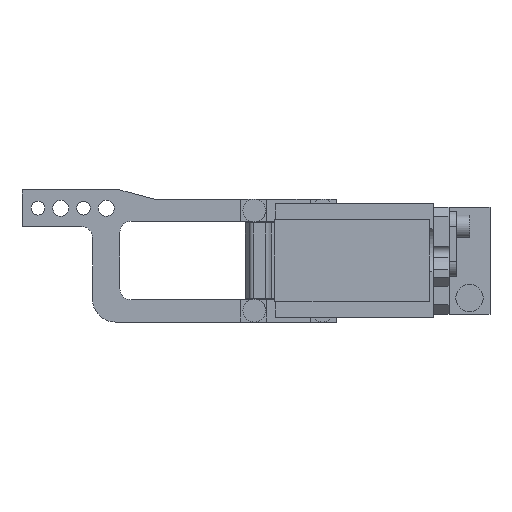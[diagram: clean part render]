
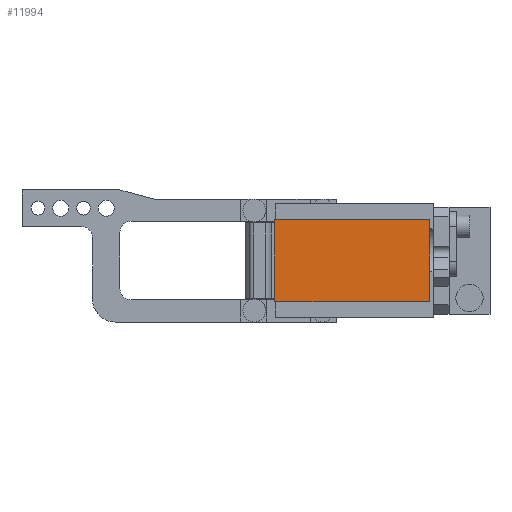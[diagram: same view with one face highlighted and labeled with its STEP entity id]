
A CAD part, front view. The second image highlights one B-rep face of the part: STEP entity #11994.
In plain terms, the highlighted planar face has unit normal (0, -1, 0).
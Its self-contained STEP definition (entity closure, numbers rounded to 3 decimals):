
#336 = EDGE_LOOP ( 'NONE', ( #6479, #1942, #2794, #4328 ) ) ;
#382 = EDGE_CURVE ( 'NONE', #1137, #1783, #5086, .T. ) ;
#750 = VERTEX_POINT ( 'NONE', #3585 ) ;
#1137 = VERTEX_POINT ( 'NONE', #3703 ) ;
#1406 = VECTOR ( 'NONE', #9334, 1000. ) ;
#1505 = DIRECTION ( 'NONE',  ( 0., 0., -1. ) ) ;
#1527 = CARTESIAN_POINT ( 'NONE',  ( -6., -233., -18. ) ) ;
#1597 = LINE ( 'NONE', #1527, #13910 ) ;
#1783 = VERTEX_POINT ( 'NONE', #13664 ) ;
#1942 = ORIENTED_EDGE ( 'NONE', *, *, #10668, .T. ) ;
#2368 = DIRECTION ( 'NONE',  ( 0., -1., 0. ) ) ;
#2432 = PLANE ( 'NONE',  #4972 ) ;
#2794 = ORIENTED_EDGE ( 'NONE', *, *, #8147, .T. ) ;
#2963 = VERTEX_POINT ( 'NONE', #3712 ) ;
#3585 = CARTESIAN_POINT ( 'NONE',  ( 62., -233., -18. ) ) ;
#3703 = CARTESIAN_POINT ( 'NONE',  ( 62., -233., 18. ) ) ;
#3712 = CARTESIAN_POINT ( 'NONE',  ( -6., -233., -18. ) ) ;
#3896 = LINE ( 'NONE', #8983, #10060 ) ;
#4328 = ORIENTED_EDGE ( 'NONE', *, *, #382, .T. ) ;
#4972 = AXIS2_PLACEMENT_3D ( 'NONE', #5460, #2368, #6457 ) ;
#5086 = LINE ( 'NONE', #8129, #1406 ) ;
#5460 = CARTESIAN_POINT ( 'NONE',  ( 0., -233., 0. ) ) ;
#5541 = FACE_OUTER_BOUND ( 'NONE', #336, .T. ) ;
#5934 = VECTOR ( 'NONE', #1505, 1000. ) ;
#6457 = DIRECTION ( 'NONE',  ( 0., 0., -1. ) ) ;
#6479 = ORIENTED_EDGE ( 'NONE', *, *, #8845, .T. ) ;
#8129 = CARTESIAN_POINT ( 'NONE',  ( -6., -233., 18. ) ) ;
#8147 = EDGE_CURVE ( 'NONE', #750, #1137, #3896, .T. ) ;
#8845 = EDGE_CURVE ( 'NONE', #1783, #2963, #9129, .T. ) ;
#8983 = CARTESIAN_POINT ( 'NONE',  ( 62., -233., 18. ) ) ;
#9129 = LINE ( 'NONE', #13552, #5934 ) ;
#9334 = DIRECTION ( 'NONE',  ( -1., 0., 0. ) ) ;
#10060 = VECTOR ( 'NONE', #10112, 1000. ) ;
#10112 = DIRECTION ( 'NONE',  ( 0., 0., 1. ) ) ;
#10138 = DIRECTION ( 'NONE',  ( 1., 0., 0. ) ) ;
#10668 = EDGE_CURVE ( 'NONE', #2963, #750, #1597, .T. ) ;
#11994 = ADVANCED_FACE ( 'NONE', ( #5541 ), #2432, .T. ) ;
#13552 = CARTESIAN_POINT ( 'NONE',  ( -6., -233., 18. ) ) ;
#13664 = CARTESIAN_POINT ( 'NONE',  ( -6., -233., 18. ) ) ;
#13910 = VECTOR ( 'NONE', #10138, 1000. ) ;
